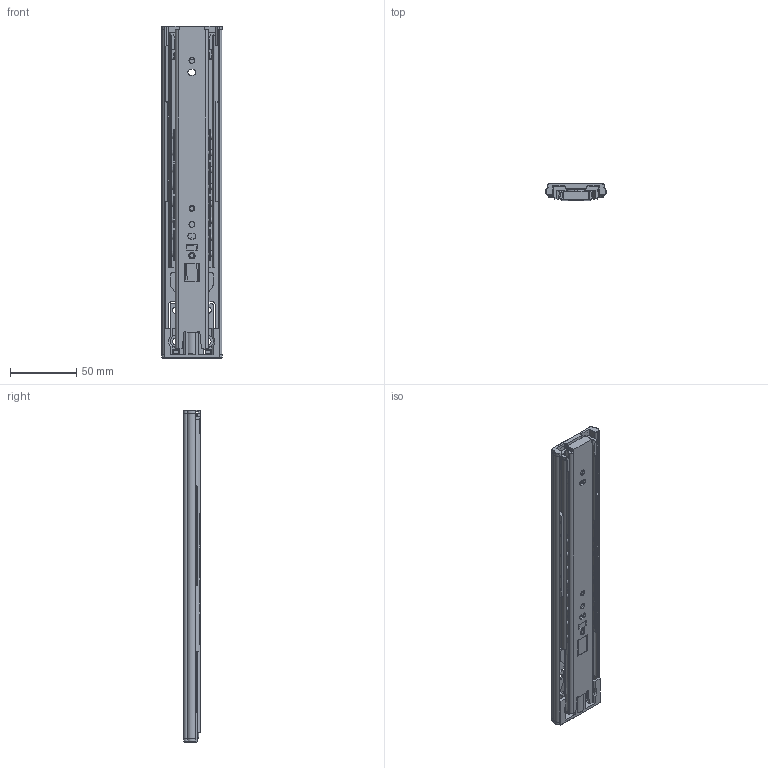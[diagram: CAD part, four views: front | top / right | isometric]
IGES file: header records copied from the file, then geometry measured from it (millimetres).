
Global section: file name: No Iges File Name specified; native system: Autodesk Inventor 2012; preprocessor: AutoDesk Inventor Iges Exporter R2012; author: MelKon; date: 20150311.135851; units: millimetre
Bounding box: 45.99 x 12.5 x 251.1 mm (x, y, z)
Volume: 60954.3 mm3; surface area: 95546.5 mm2
Topology: 42 solids, 42 shells, 1223 faces, 3603 edges, 2347 vertices
Faces by surface type: plane 715, cylinder 247, revolution 192, sphere 38, torus 28, bspline 3
Full cylindrical faces by diameter (mm): 3 x4, 7.8 x2, 9 x1
